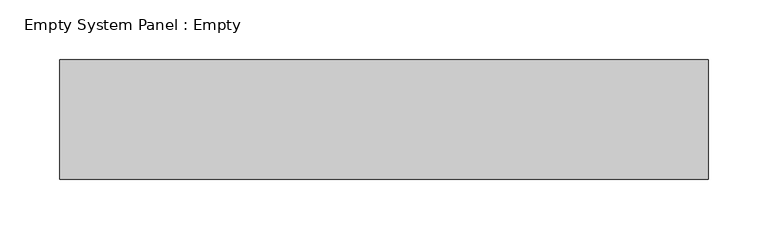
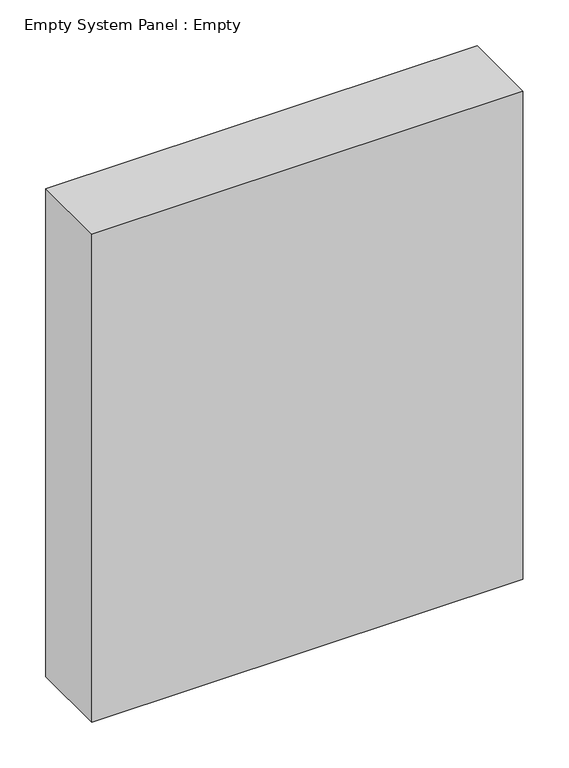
"""IFC4 building model written with IfcOpenShell, lengths in millimetres: plate geometry, Empty System Panel : Empty."""

from ifc_helpers import new_model, si_unit, origin, origin_with_axes, place, context, project, spatial, polyline, outline, extrude, source, transform, mapped, element, save


def empty_system_panel_empty_568ba75f(model_context):
    return source(origin(), model_context, "Body", "SweptSolid", [
        extrude(outline(polyline([(271.6623204, -50.0), (-271.6623204, -50.0), (-271.6623204, 50.0), (271.6623204, 50.0), (271.6623204, -50.0)])), origin_with_axes(), (0.0, 0.0, 1.0), 650.0),
    ])


if __name__ == "__main__":
    model = new_model("IFC4")
    model_context = context("Model", 3, world=origin())
    ifc_project = project(units=[si_unit("LENGTHUNIT", "METRE", prefix="MILLI")], contexts=[model_context])
    site = spatial("IfcSite", under=ifc_project)
    building = spatial("IfcBuilding", under=site)
    placement = place(None, origin())
    empty_system_panel_empty_shape = empty_system_panel_empty_568ba75f(model_context)
    element("IfcPlate", 1, ObjectType="Empty System Panel : Empty", at=placement, inside=building, context=model_context, shape_type="MappedRepresentation", body=[
        mapped(empty_system_panel_empty_shape, transform((0.0, 0.0, 0.0), x_axis=(1.0, 0.0, 0.0), y_axis=(0.0, 1.0, 0.0), z_axis=(0.0, 0.0, 1.0))),
    ])
    save(model, "model.ifc")
